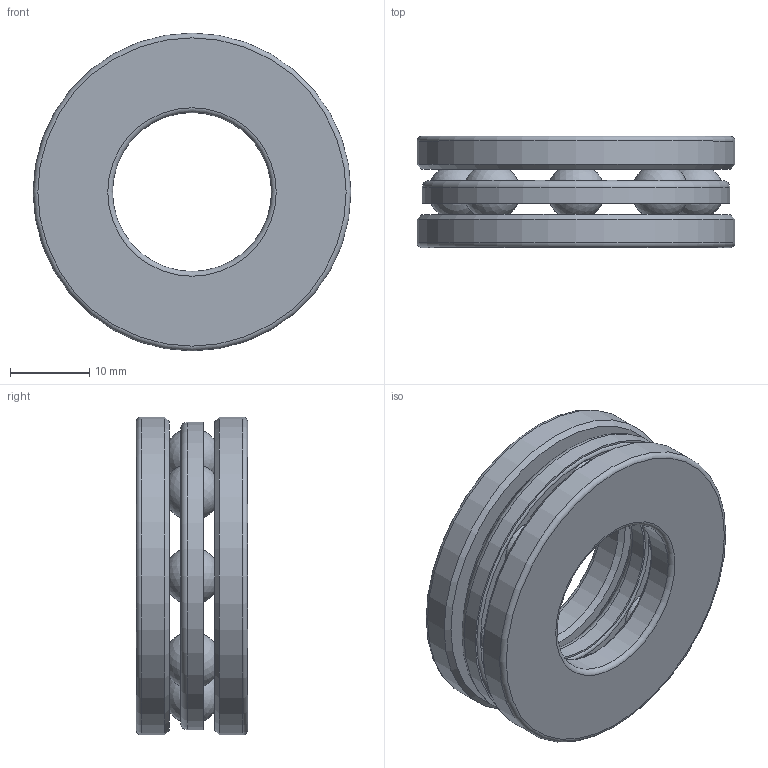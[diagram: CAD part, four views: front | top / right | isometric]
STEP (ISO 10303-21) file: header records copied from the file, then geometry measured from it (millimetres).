
FILE_DESCRIPTION(/* description */ (''),/* implementation_level */ '2;1');
FILE_NAME(/* name */ 'D:\moje\parametrické\512--\512--_\51204.stp',/* time_stamp */ '2016-07-11T14:53:42+02:00',/* author */ ('OUBALASKO'),/* organization */ (''),/* preprocessor_version */ 'ST-DEVELOPER v15.6',/* originating_system */ 'Autodesk Inventor 2015',/* authorisation */ '');
FILE_SCHEMA (('AUTOMOTIVE_DESIGN { 1 0 10303 214 3 1 1 }'));
Length unit declared in the file: millimetre
Products named in the file (7): 51204-HK; 51204-TK; 51204-ball; 51204-cage01; 51204-cage02; 51204-cage; 51204
Assembly tree (13 placements, depth 3):
  51204
    51204-HK
    51204-TK
    51204-ball  x8
    51204-cage
      51204-cage01
      51204-cage02
Bounding box: 40 x 14 x 40 mm (x, y, z)
Volume: 9003 mm3; surface area: 9980.3 mm2
Topology: 12 solids, 12 shells, 68 faces, 130 edges, 92 vertices
Faces by surface type: sphere 24, plane 14, torus 14, cylinder 12, cone 4
Full cylindrical faces by diameter (mm): 20 x1, 21.299 x1, 21.799 x1, 21.999 x1, 22 x1, 22.499 x1, 37.501 x1, 38.001 x1, 38.201 x1, 38.701 x1, 40 x2
Entity records: 1672 total; most frequent: DIRECTION 316, CARTESIAN_POINT 236, AXIS2_PLACEMENT_3D 158, ORIENTED_EDGE 154, EDGE_LOOP 153, FACE_BOUND 92, VERTEX_POINT 78, CIRCLE 77
